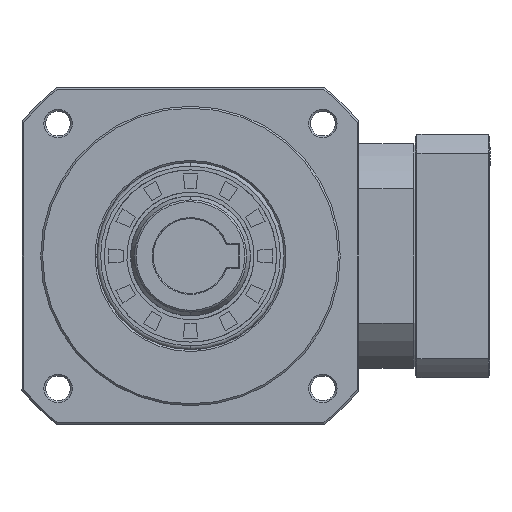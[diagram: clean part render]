
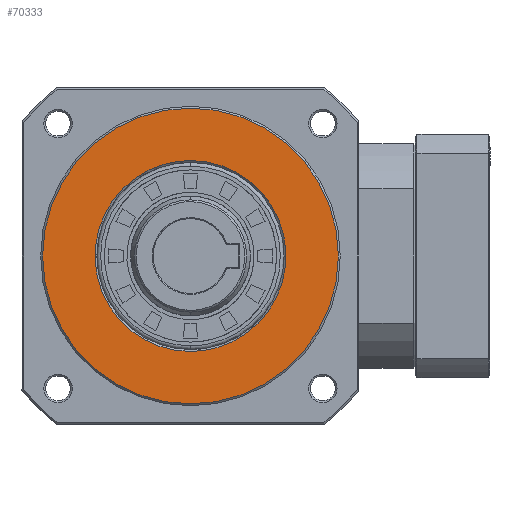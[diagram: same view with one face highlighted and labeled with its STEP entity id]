
A CAD part, left-side view. The second image highlights one B-rep face of the part: STEP entity #70333.
In plain terms, the highlighted planar face has unit normal (1, 0, 0).
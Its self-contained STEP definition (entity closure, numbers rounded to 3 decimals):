
#84 = CARTESIAN_POINT ( 'NONE',  ( 0., 15.555, 20.275 ) ) ;
#1495 = CARTESIAN_POINT ( 'NONE',  ( 0., -12.779, -22.13 ) ) ;
#4024 = DIRECTION ( 'NONE',  ( 1., 0., 0. ) ) ;
#5992 = CARTESIAN_POINT ( 'NONE',  ( 0., 0., 25.5 ) ) ;
#6300 = CARTESIAN_POINT ( 'NONE',  ( 0., 24.198, 8.216 ) ) ;
#6608 = CARTESIAN_POINT ( 'NONE',  ( 0., 20.275, -15.555 ) ) ;
#6743 = EDGE_CURVE ( 'NONE', #77542, #63485, #90465, .T. ) ;
#6913 = CARTESIAN_POINT ( 'NONE',  ( 0., 12.779, -22.13 ) ) ;
#7204 = CARTESIAN_POINT ( 'NONE',  ( 0., 25.5, -1.669 ) ) ;
#7233 = DIRECTION ( 'NONE',  ( 0., 0., -1. ) ) ;
#7421 = CARTESIAN_POINT ( 'NONE',  ( 0., -24.684, -6.612 ) ) ;
#7549 = CARTESIAN_POINT ( 'NONE',  ( 0., -39.974, 39.974 ) ) ;
#8639 = CARTESIAN_POINT ( 'NONE',  ( 0., 0., -25.5 ) ) ;
#13158 = CARTESIAN_POINT ( 'NONE',  ( 0., 15.555, -20.275 ) ) ;
#13767 = CARTESIAN_POINT ( 'NONE',  ( 0., 6.612, -24.684 ) ) ;
#13964 = CARTESIAN_POINT ( 'NONE',  ( 0., -24.684, 6.612 ) ) ;
#14359 = CARTESIAN_POINT ( 'NONE',  ( 0., 8.216, 24.198 ) ) ;
#14877 = CARTESIAN_POINT ( 'NONE',  ( 0., -16.851, 19.211 ) ) ;
#15545 = ORIENTED_EDGE ( 'NONE', *, *, #59888, .T. ) ;
#15774 = CARTESIAN_POINT ( 'NONE',  ( 0., -3.338, -25.336 ) ) ;
#20471 = CARTESIAN_POINT ( 'NONE',  ( 0., 0., 25.5 ) ) ;
#20768 = CARTESIAN_POINT ( 'NONE',  ( 0., -1.669, 25.5 ) ) ;
#21053 = CARTESIAN_POINT ( 'NONE',  ( 0., -25.336, 3.338 ) ) ;
#21150 = CARTESIAN_POINT ( 'NONE',  ( 0., 24.684, -6.612 ) ) ;
#21502 = AXIS2_PLACEMENT_3D ( 'NONE', #38747, #88155, #23887 ) ;
#21644 = CARTESIAN_POINT ( 'NONE',  ( 0., -22.13, -12.779 ) ) ;
#23467 = CARTESIAN_POINT ( 'NONE',  ( 0., 0., -25.5 ) ) ;
#23470 = CARTESIAN_POINT ( 'NONE',  ( 0., -11.3, -22.92 ) ) ;
#23887 = DIRECTION ( 'NONE',  ( 0., 0., -1. ) ) ;
#27080 = CARTESIAN_POINT ( 'NONE',  ( 0., 25.5, 1.669 ) ) ;
#27667 = CARTESIAN_POINT ( 'NONE',  ( 0., 22.13, 12.779 ) ) ;
#28489 = CARTESIAN_POINT ( 'NONE',  ( 0., -19.211, -16.851 ) ) ;
#30001 = AXIS2_PLACEMENT_3D ( 'NONE', #7549, #49077, #7233 ) ;
#31274 = CARTESIAN_POINT ( 'NONE',  ( 0., 0., 25.5 ) ) ;
#31614 = AXIS2_PLACEMENT_3D ( 'NONE', #60665, #4024, #32232 ) ;
#32232 = DIRECTION ( 'NONE',  ( 0., 0., -1. ) ) ;
#34187 = CARTESIAN_POINT ( 'NONE',  ( 0., 6.612, 24.684 ) ) ;
#34790 = CARTESIAN_POINT ( 'NONE',  ( 0., 24.684, 6.612 ) ) ;
#36203 = CARTESIAN_POINT ( 'NONE',  ( 0., -8.216, 24.198 ) ) ;
#37409 = CARTESIAN_POINT ( 'NONE',  ( 0., -6.612, -24.684 ) ) ;
#38747 = CARTESIAN_POINT ( 'NONE',  ( 0., 0., 0. ) ) ;
#38836 = CIRCLE ( 'NONE', #31614, 39.5 ) ;
#40157 = FACE_OUTER_BOUND ( 'NONE', #42780, .T. ) ;
#41282 = CARTESIAN_POINT ( 'NONE',  ( 0., 1.669, 25.5 ) ) ;
#42194 = CARTESIAN_POINT ( 'NONE',  ( 0., 1.669, -25.5 ) ) ;
#42497 = CARTESIAN_POINT ( 'NONE',  ( 0., 20.275, 15.555 ) ) ;
#42780 = EDGE_LOOP ( 'NONE', ( #15545, #72354 ) ) ;
#43455 = VERTEX_POINT ( 'NONE', #86962 ) ;
#46095 = B_SPLINE_CURVE_WITH_KNOTS ( 'NONE', 3,
 ( #20471, #20768, #78483, #85275, #36203, #63965, #84357, #56051, #14877, #56347, #85584, #71057, #91522, #84957, #13964, #21053, #70466, #77586, #84652, #7421, #91818, #63670, #21644, #70769, #28489, #86469, #58440, #1495, #23470, #51101, #37409, #15774, #50491, #8639 ),
 .UNSPECIFIED., .F., .F.,
 ( 4, 2, 2, 2, 2, 2, 2, 2, 2, 2, 2, 2, 2, 2, 2, 2, 4 ),
 ( 0., 0.031, 0.063, 0.094, 0.125, 0.156, 0.188, 0.219, 0.25, 0.281, 0.313, 0.344, 0.375, 0.406, 0.438, 0.469, 0.5 ),
 .UNSPECIFIED. ) ;
#47605 = EDGE_CURVE ( 'NONE', #43455, #75560, #38836, .T. ) ;
#48431 = CARTESIAN_POINT ( 'NONE',  ( 0., 16.851, -19.211 ) ) ;
#48740 = CARTESIAN_POINT ( 'NONE',  ( 0., 22.92, -11.3 ) ) ;
#49046 = CARTESIAN_POINT ( 'NONE',  ( 0., 11.3, -22.92 ) ) ;
#49077 = DIRECTION ( 'NONE',  ( 1., 0., 0. ) ) ;
#50491 = CARTESIAN_POINT ( 'NONE',  ( 0., -1.669, -25.5 ) ) ;
#51101 = CARTESIAN_POINT ( 'NONE',  ( 0., -8.216, -24.198 ) ) ;
#55145 = EDGE_LOOP ( 'NONE', ( #68604, #80581 ) ) ;
#56051 = CARTESIAN_POINT ( 'NONE',  ( 0., -15.555, 20.275 ) ) ;
#56347 = CARTESIAN_POINT ( 'NONE',  ( 0., -19.211, 16.851 ) ) ;
#56658 = CIRCLE ( 'NONE', #21502, 39.5 ) ;
#56762 = CARTESIAN_POINT ( 'NONE',  ( 0., 11.3, 22.92 ) ) ;
#58440 = CARTESIAN_POINT ( 'NONE',  ( 0., -15.555, -20.275 ) ) ;
#59888 = EDGE_CURVE ( 'NONE', #75560, #43455, #56658, .T. ) ;
#60665 = CARTESIAN_POINT ( 'NONE',  ( 0., 0., 0. ) ) ;
#62585 = CARTESIAN_POINT ( 'NONE',  ( 0., 19.211, -16.851 ) ) ;
#63485 = VERTEX_POINT ( 'NONE', #31274 ) ;
#63670 = CARTESIAN_POINT ( 'NONE',  ( 0., -22.92, -11.3 ) ) ;
#63965 = CARTESIAN_POINT ( 'NONE',  ( 0., -11.3, 22.92 ) ) ;
#65530 = FACE_BOUND ( 'NONE', #55145, .T. ) ;
#68604 = ORIENTED_EDGE ( 'NONE', *, *, #74669, .F. ) ;
#69368 = CARTESIAN_POINT ( 'NONE',  ( 0., 24.198, -8.216 ) ) ;
#69962 = CARTESIAN_POINT ( 'NONE',  ( 0., 25.336, 3.338 ) ) ;
#70333 = ADVANCED_FACE ( 'NONE', ( #65530, #40157 ), #71497, .T. ) ;
#70466 = CARTESIAN_POINT ( 'NONE',  ( 0., -25.5, 1.669 ) ) ;
#70563 = CARTESIAN_POINT ( 'NONE',  ( 0., 0., -25.5 ) ) ;
#70769 = CARTESIAN_POINT ( 'NONE',  ( 0., -20.275, -15.555 ) ) ;
#71057 = CARTESIAN_POINT ( 'NONE',  ( 0., -22.13, 12.779 ) ) ;
#71497 = PLANE ( 'NONE',  #30001 ) ;
#72354 = ORIENTED_EDGE ( 'NONE', *, *, #47605, .T. ) ;
#74669 = EDGE_CURVE ( 'NONE', #63485, #77542, #46095, .T. ) ;
#75560 = VERTEX_POINT ( 'NONE', #79020 ) ;
#76767 = CARTESIAN_POINT ( 'NONE',  ( 0., 25.336, -3.338 ) ) ;
#77072 = CARTESIAN_POINT ( 'NONE',  ( 0., 19.211, 16.851 ) ) ;
#77373 = CARTESIAN_POINT ( 'NONE',  ( 0., 3.338, -25.336 ) ) ;
#77542 = VERTEX_POINT ( 'NONE', #23467 ) ;
#77586 = CARTESIAN_POINT ( 'NONE',  ( 0., -25.5, -1.669 ) ) ;
#77682 = CARTESIAN_POINT ( 'NONE',  ( 0., 22.13, -12.779 ) ) ;
#78483 = CARTESIAN_POINT ( 'NONE',  ( 0., -3.338, 25.336 ) ) ;
#79020 = CARTESIAN_POINT ( 'NONE',  ( 0., 0., -39.5 ) ) ;
#80581 = ORIENTED_EDGE ( 'NONE', *, *, #6743, .F. ) ;
#83549 = CARTESIAN_POINT ( 'NONE',  ( 0., 3.338, 25.336 ) ) ;
#83853 = CARTESIAN_POINT ( 'NONE',  ( 0., 16.851, 19.211 ) ) ;
#84147 = CARTESIAN_POINT ( 'NONE',  ( 0., 12.779, 22.13 ) ) ;
#84357 = CARTESIAN_POINT ( 'NONE',  ( 0., -12.779, 22.13 ) ) ;
#84652 = CARTESIAN_POINT ( 'NONE',  ( 0., -25.336, -3.338 ) ) ;
#84754 = CARTESIAN_POINT ( 'NONE',  ( 0., 22.92, 11.3 ) ) ;
#84957 = CARTESIAN_POINT ( 'NONE',  ( 0., -24.198, 8.216 ) ) ;
#85275 = CARTESIAN_POINT ( 'NONE',  ( 0., -6.612, 24.684 ) ) ;
#85584 = CARTESIAN_POINT ( 'NONE',  ( 0., -20.275, 15.555 ) ) ;
#86469 = CARTESIAN_POINT ( 'NONE',  ( 0., -16.851, -19.211 ) ) ;
#86962 = CARTESIAN_POINT ( 'NONE',  ( 0., 0., 39.5 ) ) ;
#88155 = DIRECTION ( 'NONE',  ( 1., 0., 0. ) ) ;
#90465 = B_SPLINE_CURVE_WITH_KNOTS ( 'NONE', 3,
 ( #70563, #42194, #77373, #13767, #91618, #49046, #6913, #13158, #48431, #62585, #6608, #77682, #48740, #69368, #21150, #76767, #7204, #27080, #69962, #34790, #6300, #84754, #27667, #42497, #77072, #83853, #84, #84147, #56762, #14359, #34187, #83549, #41282, #5992 ),
 .UNSPECIFIED., .F., .F.,
 ( 4, 2, 2, 2, 2, 2, 2, 2, 2, 2, 2, 2, 2, 2, 2, 2, 4 ),
 ( 0.5, 0.531, 0.563, 0.594, 0.625, 0.656, 0.688, 0.719, 0.75, 0.781, 0.813, 0.844, 0.875, 0.906, 0.938, 0.969, 1. ),
 .UNSPECIFIED. ) ;
#91522 = CARTESIAN_POINT ( 'NONE',  ( 0., -22.92, 11.3 ) ) ;
#91618 = CARTESIAN_POINT ( 'NONE',  ( 0., 8.216, -24.198 ) ) ;
#91818 = CARTESIAN_POINT ( 'NONE',  ( 0., -24.198, -8.216 ) ) ;
